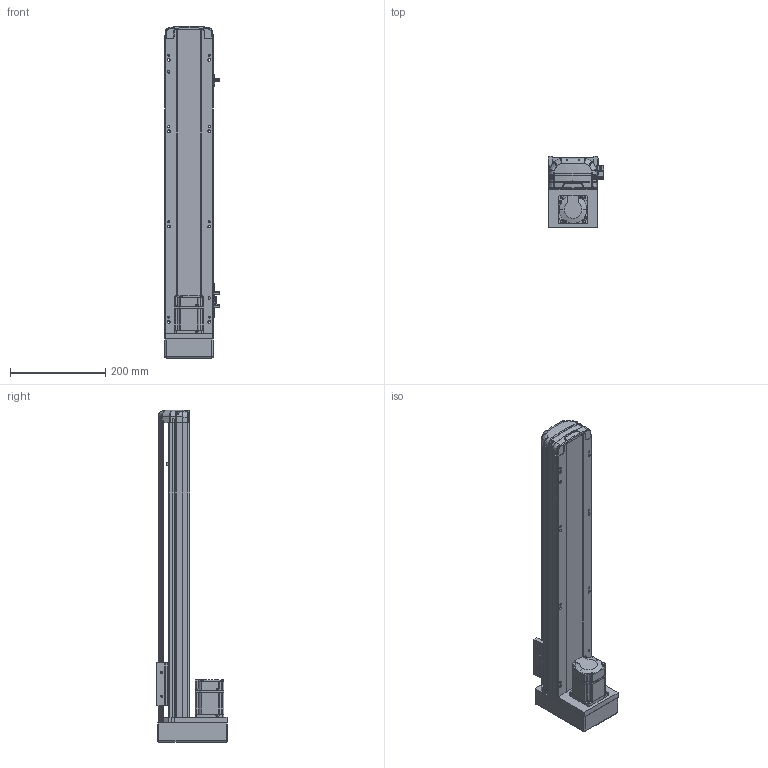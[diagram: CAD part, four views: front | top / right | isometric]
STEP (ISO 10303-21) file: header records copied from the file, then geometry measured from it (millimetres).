
FILE_DESCRIPTION (( 'STEP AP214' ), '1' );
FILE_NAME ('RTH10-XX-450-M-M20-C4.STEP', '2025-10-25T04:49:22', ( 'Microsoft' ), ( 'Microsoft' ), 'SwSTEP 2.0', 'SolidWorks 2018', '' );
FILE_SCHEMA (( 'AUTOMOTIVE_DESIGN' ));
Length unit declared in the file: millimetre
Products named in the file (10): N_RTH12-M-018-裔赽^RTH10-XX-XX-M-M20-C4; N_RTH12-M-008-萇儂啣^RTH10-XX-XX-M-M20-C4; N_RTH12-GY-004-賑釱^RTH10-XX-XX-M-M20-C4; N_200W-1^RTH10-XX-XX-M-M20-C4; N_OMRON EE-SX672 传感器^RTH10-XX-XX-M-M20-C4; RTH10-XX-450-M-M20-C4; N_RTH12-M-007P-奻裔^RTH10-XX-XX-M-M20-C4; N_RTH12-M-011P-臏倰第菁釱^RTH10-XX-XX-M-M20-C4; N_RTH12-GY-001P^RTH10-XX-XX-M-M20-C4; N_RTH13-L-012覜茼え俋离^RTH10-XX-XX-M-M20-C4
Assembly tree (11 placements, depth 2):
  RTH10-XX-450-M-M20-C4
    N_RTH12-M-011P-臏倰第菁釱^RTH10-XX-XX-M-M20-C4
    N_RTH13-L-012覜茼え俋离^RTH10-XX-XX-M-M20-C4
    N_OMRON EE-SX672 传感器^RTH10-XX-XX-M-M20-C4  x3
    N_200W-1^RTH10-XX-XX-M-M20-C4
    N_RTH12-M-007P-奻裔^RTH10-XX-XX-M-M20-C4
    N_RTH12-M-008-萇儂啣^RTH10-XX-XX-M-M20-C4
    N_RTH12-M-018-裔赽^RTH10-XX-XX-M-M20-C4
    N_RTH12-GY-004-賑釱^RTH10-XX-XX-M-M20-C4
    N_RTH12-GY-001P^RTH10-XX-XX-M-M20-C4
Bounding box: 116.5 x 149 x 697.14 mm (x, y, z)
Volume: 3526210.7 mm3; surface area: 527206.2 mm2
Topology: 10 solids, 12 shells, 1969 faces, 5482 edges, 3599 vertices
Faces by surface type: plane 987, cylinder 475, bspline 472, cone 29, sphere 4, torus 2
Entity records: 59120 total; most frequent: CARTESIAN_POINT 23227, ORIENTED_EDGE 8036, DIRECTION 6212, EDGE_CURVE 4024, VERTEX_POINT 2643, LINE 2172, VECTOR 2172, AXIS2_PLACEMENT_3D 2020
